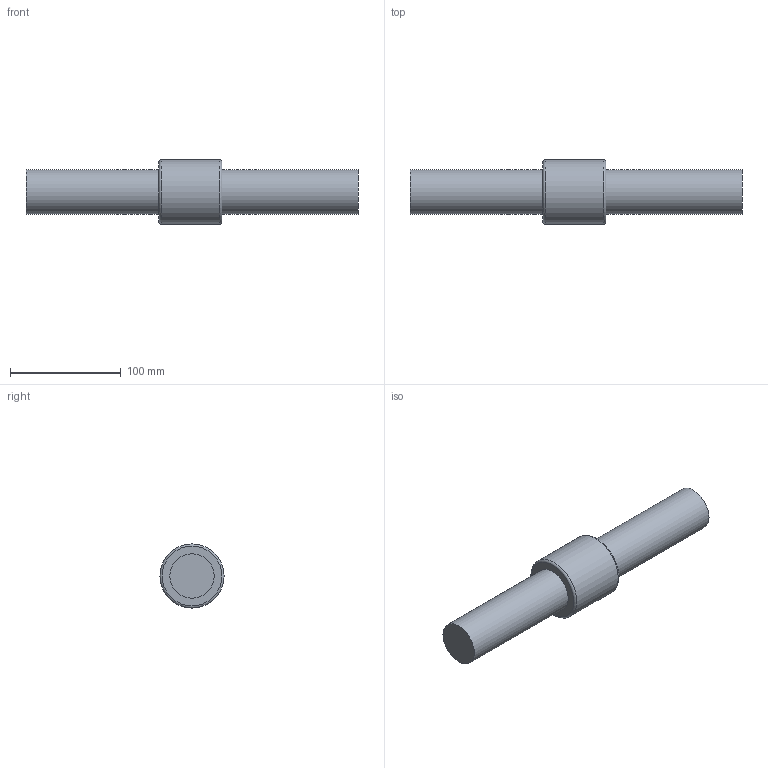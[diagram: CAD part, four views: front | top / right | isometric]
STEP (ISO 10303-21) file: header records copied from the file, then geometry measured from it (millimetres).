
FILE_DESCRIPTION((''),'2;1');
FILE_NAME('D:\製品 (図面)\カタログ用3D\ネジ関連\STEP形式\TMS\TMS40.stp','2010-06-02T15:34:15',('Tsuchiya'),(''),'Autodesk Inventor 10','Autodesk Inventor 10','');
FILE_SCHEMA(('AUTOMOTIVE_DESIGN { 1 0 10303 214 1 1 1 1 }'));
Length unit declared in the file: millimetre
Products named in the file (3): TMS40; TMS401; TMS402
Assembly tree (2 placements, depth 2):
  TMS40
    TMS401
    TMS402
Bounding box: 300 x 58 x 58 mm (x, y, z)
Volume: 455653.3 mm3; surface area: 60215.8 mm2
Topology: 2 solids, 2 shells, 9 faces, 13 edges, 8 vertices
Faces by surface type: plane 4, cylinder 3, torus 2
Full cylindrical faces by diameter (mm): 40 x2, 58 x1
Entity records: 254 total; most frequent: DIRECTION 44, CARTESIAN_POINT 30, AXIS2_PLACEMENT_3D 22, ORIENTED_EDGE 16, EDGE_LOOP 16, FACE_OUTER_BOUND 9, ADVANCED_FACE 9, VERTEX_POINT 8
